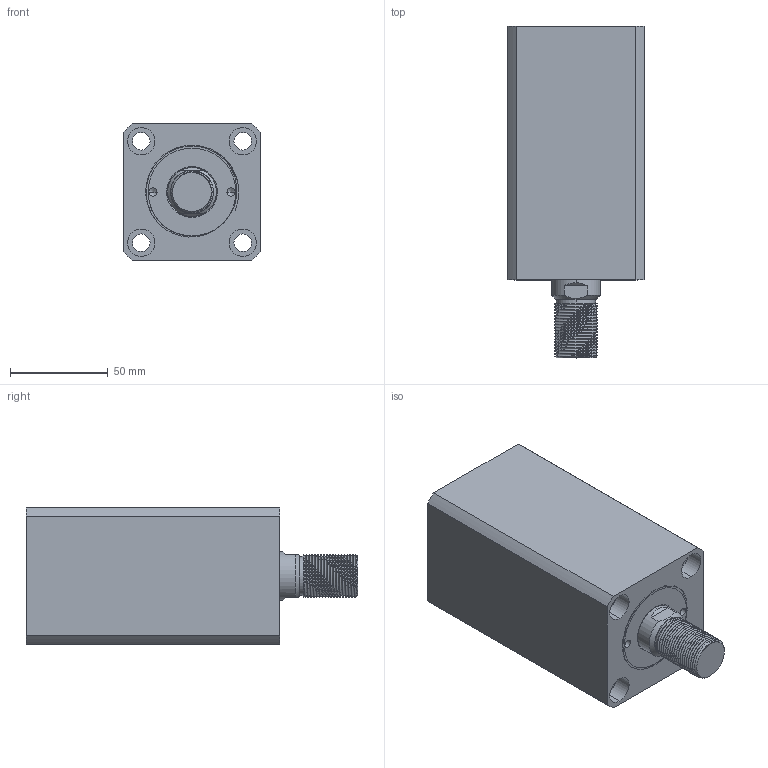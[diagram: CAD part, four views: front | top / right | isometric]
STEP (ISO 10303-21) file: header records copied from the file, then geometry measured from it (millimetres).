
FILE_DESCRIPTION (( 'STEP AP214' ), '1' );
FILE_NAME ('chtb-sdmb40x75w_asm.STEP', '2018-06-07T00:44:31', ( 'Windows' ), ( 'Microsoft' ), 'SwSTEP 2.0', 'SolidWorks 2015', '' );
FILE_SCHEMA (( 'AUTOMOTIVE_DESIGN' ));
Length unit declared in the file: millimetre
Products named in the file (4): CHTB-SD40QG; CHTB-SDMB40X75NBT; CHTB-SD40X75WHSG; chtb-sdmb40x75w_asm
Assembly tree (3 placements, depth 2):
  chtb-sdmb40x75w_asm
    CHTB-SD40X75WHSG
    CHTB-SDMB40X75NBT
    CHTB-SD40QG
Bounding box: 70 x 170 x 70 mm (x, y, z)
Volume: 543178.8 mm3; surface area: 107249.2 mm2
Topology: 3 solids, 4 shells, 201 faces, 539 edges, 359 vertices
Faces by surface type: cylinder 122, plane 38, bspline 16, torus 14, cone 11
Entity records: 13455 total; most frequent: CARTESIAN_POINT 8586, ORIENTED_EDGE 1066, DIRECTION 904, EDGE_CURVE 533, AXIS2_PLACEMENT_3D 374, VERTEX_POINT 359, EDGE_LOOP 238, ADVANCED_FACE 201
